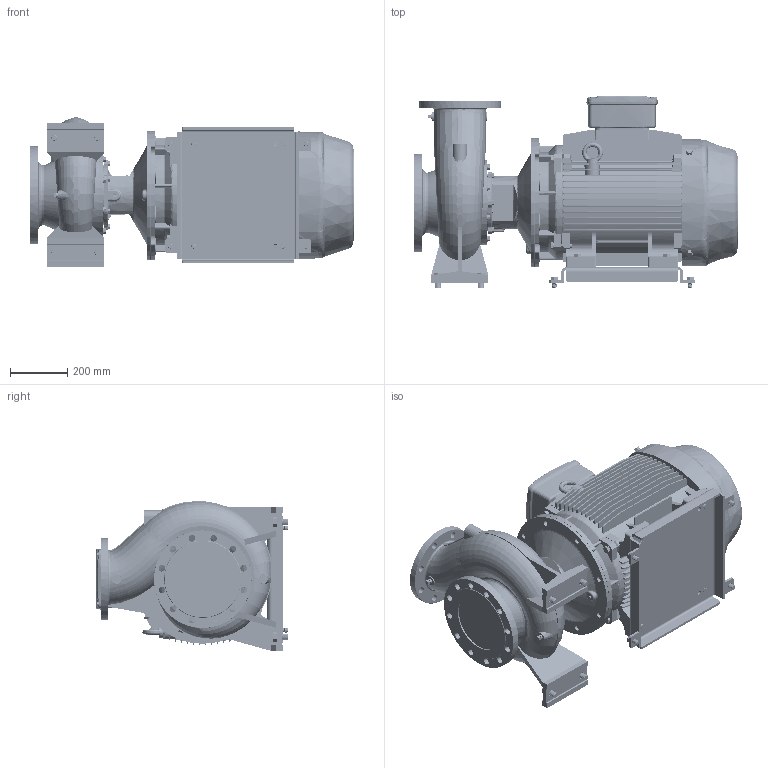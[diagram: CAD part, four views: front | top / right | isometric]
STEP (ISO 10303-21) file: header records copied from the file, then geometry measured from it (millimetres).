
FILE_DESCRIPTION (( 'STEP AP214' ), '1' );
FILE_NAME ('GSD2 150-200_45_(225SM)_W21.STEP', '2026-07-07T04:35:26', ( '' ), ( '' ), 'SwSTEP 2.0', 'SolidWorks 2024', '' );
FILE_SCHEMA (( 'AUTOMOTIVE_DESIGN' ));
Length unit declared in the file: millimetre
Products named in the file (12): Parametric bolt_SFT-A359B; 150-200-225S_M_ﾃﾞﾌｫﾙﾄ; Parametric bolt_SFT-A403B; GSD2  150-200_45_(225SM)_W21; Parametric bolt and washer_SFT-A351B; CGS11-5282; Parametric bolt and washer_SFT-A359B; Parametric bolt and washer_SFT-A403B; 225S_M2P IE3_W21T_B35; Parametric bolt_SFT-A351B; Parametric Flat Washer_M20; Parametric Flat Washer_M16
Assembly tree (21 placements, depth 3):
  GSD2  150-200_45_(225SM)_W21
    150-200-225S_M_ﾃﾞﾌｫﾙﾄ
    225S_M2P IE3_W21T_B35
    CGS11-5282
    Parametric bolt and washer_SFT-A403B  x4
      Parametric bolt_SFT-A403B
      Parametric Flat Washer_M20
    Parametric bolt and washer_SFT-A351B  x4
      Parametric bolt_SFT-A351B
      Parametric Flat Washer_M16
    Parametric bolt and washer_SFT-A359B  x4
      Parametric bolt_SFT-A359B
      Parametric Flat Washer_M16
Bounding box: 1129.5 x 671 x 522.29 mm (x, y, z)
Volume: 144079206.7 mm3; surface area: 5205190.4 mm2
Topology: 36 solids, 41 shells, 4213 faces, 11110 edges, 7096 vertices
Faces by surface type: plane 1716, cylinder 1464, cone 482, torus 273, bspline 263, sphere 15
Entity records: 178847 total; most frequent: CARTESIAN_POINT 92309, ORIENTED_EDGE 18906, DIRECTION 17219, EDGE_CURVE 9453, AXIS2_PLACEMENT_3D 6271, VERTEX_POINT 6025, VECTOR 4677, LINE 4677
